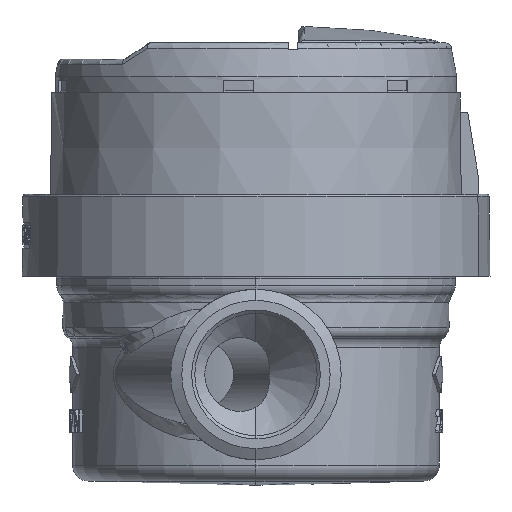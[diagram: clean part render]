
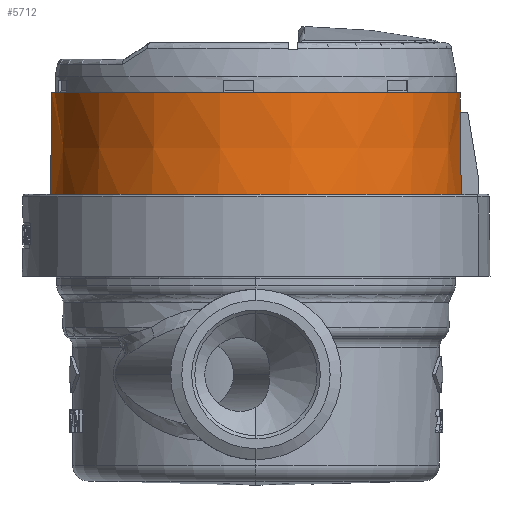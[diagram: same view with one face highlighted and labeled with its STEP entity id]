
A CAD part, left-side view. The second image highlights one B-rep face of the part: STEP entity #5712.
In plain terms, the highlighted conical face has half-angle 0.504 degrees and reference radius 31.9 mm.
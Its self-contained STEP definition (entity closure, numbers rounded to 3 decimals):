
#49 = CARTESIAN_POINT ( 'NONE',  ( 0., -31.777, 40.7 ) ) ;
#583 = VERTEX_POINT ( 'NONE', #22100 ) ;
#1595 = CIRCLE ( 'NONE', #47173, 31.75 ) ;
#2034 = AXIS2_PLACEMENT_3D ( 'NONE', #46064, #18988, #34570 ) ;
#3247 = CARTESIAN_POINT ( 'NONE',  ( 0., 31.9, 26.674 ) ) ;
#3318 = ORIENTED_EDGE ( 'NONE', *, *, #43851, .F. ) ;
#3482 = EDGE_CURVE ( 'NONE', #15444, #583, #42076, .T. ) ;
#3751 = DIRECTION ( 'NONE',  ( 0., 1., 0. ) ) ;
#4301 = DIRECTION ( 'NONE',  ( 0., 0.009, -1. ) ) ;
#5712 = ADVANCED_FACE ( 'NONE', ( #48841 ), #18785, .T. ) ;
#6793 = CARTESIAN_POINT ( 'NONE',  ( 0., 0., 26.674 ) ) ;
#9362 = DIRECTION ( 'NONE',  ( 0., -0.009, -1. ) ) ;
#10911 = CIRCLE ( 'NONE', #14877, 31.9 ) ;
#12247 = B_SPLINE_CURVE_WITH_KNOTS ( 'NONE', 3,
 ( #38411, #19312, #23329, #21252, #17216, #48275, #29559, #21734, #17461, #26027 ),
 .UNSPECIFIED., .F., .F.,
 ( 4, 3, 3, 4 ),
 ( 0.007, 0.007, 0.014, 0.021 ),
 .UNSPECIFIED. ) ;
#12984 = LINE ( 'NONE', #23100, #48375 ) ;
#13195 = AXIS2_PLACEMENT_3D ( 'NONE', #22063, #33859, #34863 ) ;
#14877 = AXIS2_PLACEMENT_3D ( 'NONE', #6793, #33856, #3751 ) ;
#15444 = VERTEX_POINT ( 'NONE', #49 ) ;
#17216 = CARTESIAN_POINT ( 'NONE',  ( -1., -31.86, 29.487 ) ) ;
#17461 = CARTESIAN_POINT ( 'NONE',  ( -1., -31.78, 38.518 ) ) ;
#18568 = CARTESIAN_POINT ( 'NONE',  ( -1., -31.884, 26.674 ) ) ;
#18785 = CONICAL_SURFACE ( 'NONE', #13195, 31.9, 0.009 ) ;
#18969 = CARTESIAN_POINT ( 'NONE',  ( 0., -31.75, 43.75 ) ) ;
#18988 = DIRECTION ( 'NONE',  ( 0., 0., -1. ) ) ;
#19312 = CARTESIAN_POINT ( 'NONE',  ( -1., -31.883, 26.834 ) ) ;
#19969 = VERTEX_POINT ( 'NONE', #3247 ) ;
#20595 = ORIENTED_EDGE ( 'NONE', *, *, #42822, .T. ) ;
#21092 = VERTEX_POINT ( 'NONE', #18969 ) ;
#21252 = CARTESIAN_POINT ( 'NONE',  ( -1., -31.88, 27.154 ) ) ;
#21734 = CARTESIAN_POINT ( 'NONE',  ( -1., -31.799, 36.335 ) ) ;
#22063 = CARTESIAN_POINT ( 'NONE',  ( 0., 0., 26.674 ) ) ;
#22100 = CARTESIAN_POINT ( 'NONE',  ( -1., -31.761, 40.7 ) ) ;
#22485 = VECTOR ( 'NONE', #9362, 1000. ) ;
#23100 = CARTESIAN_POINT ( 'NONE',  ( 0., 31.9, 26.674 ) ) ;
#23329 = CARTESIAN_POINT ( 'NONE',  ( -1., -31.882, 26.994 ) ) ;
#24095 = ORIENTED_EDGE ( 'NONE', *, *, #47226, .T. ) ;
#24213 = CARTESIAN_POINT ( 'NONE',  ( 0., 0., 43.75 ) ) ;
#26027 = CARTESIAN_POINT ( 'NONE',  ( -1., -31.761, 40.7 ) ) ;
#26379 = VERTEX_POINT ( 'NONE', #18568 ) ;
#29559 = CARTESIAN_POINT ( 'NONE',  ( -1., -31.819, 34.153 ) ) ;
#31828 = VERTEX_POINT ( 'NONE', #46049 ) ;
#33856 = DIRECTION ( 'NONE',  ( 0., 0., -1. ) ) ;
#33859 = DIRECTION ( 'NONE',  ( 0., 0., -1. ) ) ;
#34570 = DIRECTION ( 'NONE',  ( 0., -1., 0. ) ) ;
#34863 = DIRECTION ( 'NONE',  ( 0., 1., 0. ) ) ;
#35210 = CARTESIAN_POINT ( 'NONE',  ( 0., -31.9, 26.674 ) ) ;
#35281 = DIRECTION ( 'NONE',  ( 0., 0., -1. ) ) ;
#35960 = LINE ( 'NONE', #35210, #22485 ) ;
#38411 = CARTESIAN_POINT ( 'NONE',  ( -1., -31.884, 26.674 ) ) ;
#39034 = DIRECTION ( 'NONE',  ( 0., 1., 0. ) ) ;
#40006 = ORIENTED_EDGE ( 'NONE', *, *, #40772, .F. ) ;
#40772 = EDGE_CURVE ( 'NONE', #21092, #15444, #35960, .T. ) ;
#42076 = CIRCLE ( 'NONE', #2034, 31.777 ) ;
#42150 = EDGE_LOOP ( 'NONE', ( #40006, #24095, #20595, #3318, #45487, #47579 ) ) ;
#42822 = EDGE_CURVE ( 'NONE', #31828, #19969, #12984, .T. ) ;
#42885 = EDGE_CURVE ( 'NONE', #26379, #583, #12247, .T. ) ;
#43851 = EDGE_CURVE ( 'NONE', #26379, #19969, #10911, .T. ) ;
#45487 = ORIENTED_EDGE ( 'NONE', *, *, #42885, .T. ) ;
#46049 = CARTESIAN_POINT ( 'NONE',  ( 0., 31.75, 43.75 ) ) ;
#46064 = CARTESIAN_POINT ( 'NONE',  ( 0., 0., 40.7 ) ) ;
#47173 = AXIS2_PLACEMENT_3D ( 'NONE', #24213, #35281, #39034 ) ;
#47226 = EDGE_CURVE ( 'NONE', #21092, #31828, #1595, .T. ) ;
#47579 = ORIENTED_EDGE ( 'NONE', *, *, #3482, .F. ) ;
#48275 = CARTESIAN_POINT ( 'NONE',  ( -1., -31.839, 31.82 ) ) ;
#48375 = VECTOR ( 'NONE', #4301, 1000. ) ;
#48841 = FACE_OUTER_BOUND ( 'NONE', #42150, .T. ) ;
